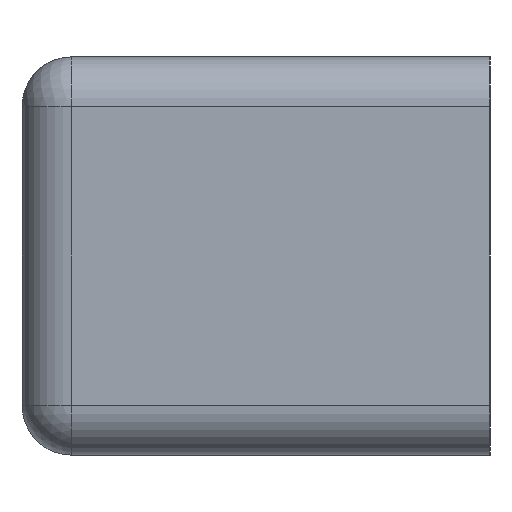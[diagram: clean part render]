
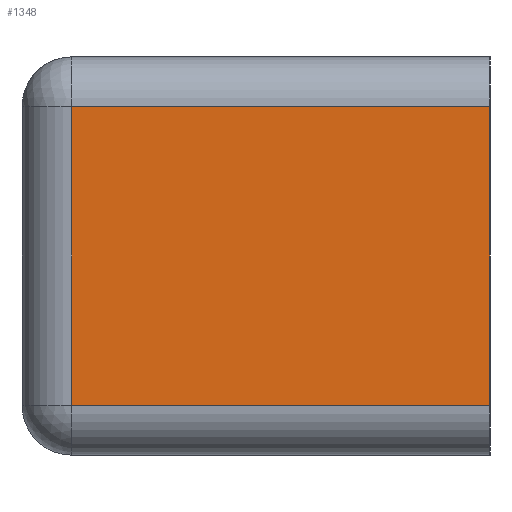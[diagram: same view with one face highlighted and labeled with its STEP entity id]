
A CAD part, left-side view. The second image highlights one B-rep face of the part: STEP entity #1348.
In plain terms, the highlighted planar face has unit normal (-1, 0, 0).
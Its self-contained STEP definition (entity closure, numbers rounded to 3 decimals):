
#113=PLANE('',#1530);
#147=LINE('',#2397,#227);
#161=LINE('',#2457,#241);
#163=LINE('',#2460,#243);
#168=LINE('',#2468,#248);
#227=VECTOR('',#1678,10.);
#241=VECTOR('',#1740,10.);
#243=VECTOR('',#1744,10.);
#248=VECTOR('',#1755,10.);
#372=FACE_OUTER_BOUND('',#456,.T.);
#456=EDGE_LOOP('',(#1263,#1264,#1265,#1266));
#597=VERTEX_POINT('',#2394);
#598=VERTEX_POINT('',#2396);
#618=VERTEX_POINT('',#2445);
#620=VERTEX_POINT('',#2453);
#747=EDGE_CURVE('',#598,#597,#147,.T.);
#778=EDGE_CURVE('',#598,#620,#161,.T.);
#780=EDGE_CURVE('',#620,#618,#163,.T.);
#785=EDGE_CURVE('',#618,#597,#168,.T.);
#1263=ORIENTED_EDGE('',*,*,#778,.F.);
#1264=ORIENTED_EDGE('',*,*,#747,.T.);
#1265=ORIENTED_EDGE('',*,*,#785,.F.);
#1266=ORIENTED_EDGE('',*,*,#780,.F.);
#1348=ADVANCED_FACE('',(#372),#113,.T.);
#1530=AXIS2_PLACEMENT_3D('',#2689,#1935,#1936);
#1678=DIRECTION('',(0.,0.,1.));
#1740=DIRECTION('',(0.,1.,0.));
#1744=DIRECTION('',(0.,0.,1.));
#1755=DIRECTION('',(0.,-1.,0.));
#1935=DIRECTION('center_axis',(-1.,0.,0.));
#1936=DIRECTION('ref_axis',(0.,-1.,0.));
#2394=CARTESIAN_POINT('',(-86.,-11.75,17.5));
#2396=CARTESIAN_POINT('',(-86.,-11.75,2.5));
#2397=CARTESIAN_POINT('',(-86.,-11.75,0.));
#2445=CARTESIAN_POINT('',(-86.,9.25,17.5));
#2453=CARTESIAN_POINT('',(-86.,9.25,2.5));
#2457=CARTESIAN_POINT('',(-86.,5.875,2.5));
#2460=CARTESIAN_POINT('',(-86.,9.25,0.));
#2468=CARTESIAN_POINT('',(-86.,5.875,17.5));
#2689=CARTESIAN_POINT('Origin',(-86.,11.75,0.));
